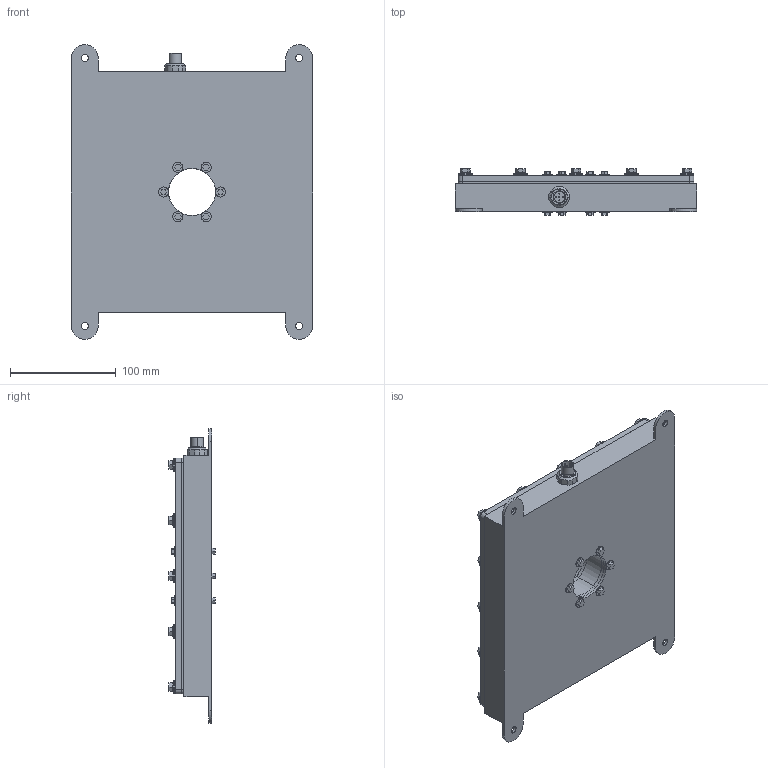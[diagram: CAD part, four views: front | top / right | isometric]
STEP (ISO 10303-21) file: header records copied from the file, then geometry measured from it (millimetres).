
FILE_DESCRIPTION (( 'STEP AP203' ), '1' );
FILE_NAME ('DLPW-NC-190x190 (R1.1).STEP', '2012-01-26T19:51:02', ( 'Chris Mcgeary' ), ( 'Allison Park Group' ), 'SwSTEP 2.0', 'SolidWorks 2011', '' );
FILE_SCHEMA (( 'CONFIG_CONTROL_DESIGN' ));
Length unit declared in the file: inch
Products named in the file (14): SM3-12 6H; SM3-16 6H; LA-GK017 (LA-BJ BODY GASKET); 5mmclinch1_94100A140; DLPW-NC-190x190 (R1.1); LED PLATE; PLUG (CIRCUIT BOARD); SM5+8 BSW; SM5x16 8H; SM3+8 FW; LA-GK018 (LA-BJ Port Gasket); LA-BK011 (LA-BJ Lens Port R1.1); LA-VP017 (LA-BJ VIEWPORT R1.1); LA-BODY015 (LA-BJ R1.1)
Assembly tree (80 placements, depth 2):
  DLPW-NC-190x190 (R1.1)
    SM5x16 8H  x16
    SM5+8 BSW  x16
    5mmclinch1_94100A140  x16
    SM3+8 FW  x12
    SM3-12 6H  x6
    LA-VP017 (LA-BJ VIEWPORT R1.1)
    SM3-16 6H  x6
    LA-GK018 (LA-BJ Port Gasket)  x2
    LA-GK017 (LA-BJ BODY GASKET)
    PLUG (CIRCUIT BOARD)
    LED PLATE
    LA-BK011 (LA-BJ Lens Port R1.1)
    LA-BODY015 (LA-BJ R1.1)
Bounding box: 228.6 x 43.85 x 279.4 mm (x, y, z)
Volume: 610132.7 mm3; surface area: 417429.3 mm2
Topology: 108 solids, 108 shells, 1354 faces, 2938 edges, 1877 vertices
Faces by surface type: cylinder 627, plane 513, cone 214
Entity records: 17545 total; most frequent: DIRECTION 2745, CARTESIAN_POINT 2409, ORIENTED_EDGE 2216, AXIS2_PLACEMENT_3D 1115, EDGE_CURVE 1108, VERTEX_POINT 727, EDGE_LOOP 653, CIRCLE 587
